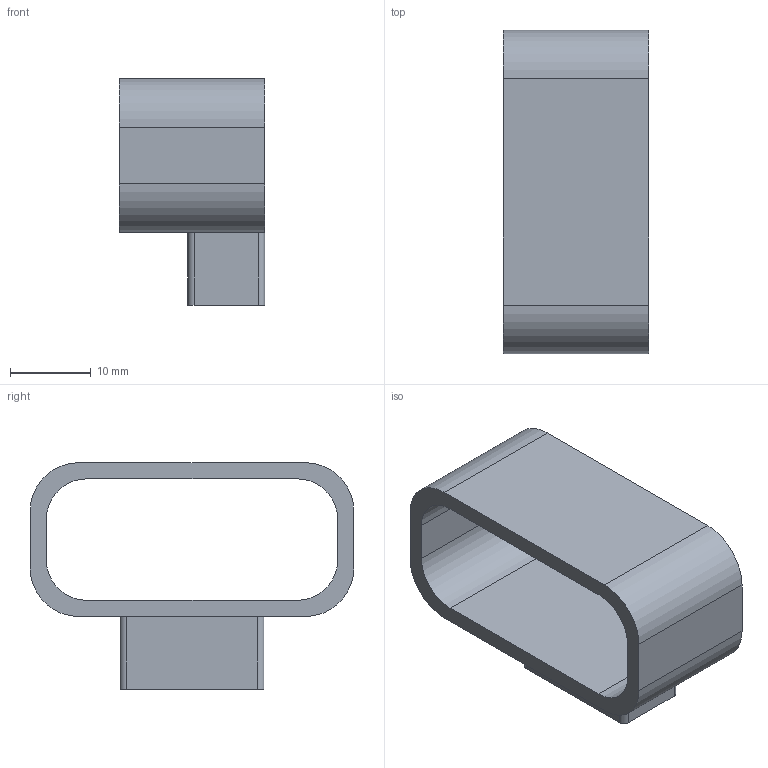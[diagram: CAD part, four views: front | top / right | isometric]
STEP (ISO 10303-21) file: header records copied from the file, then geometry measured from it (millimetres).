
FILE_DESCRIPTION(/* description */ ('STEP AP242','CAx-IF Rec.Pracs.---Representation and Presentation of Product Manufacturing Information (PMI)---4.0---2014-10-13','CAx-IF Rec.Pracs.---3D Tessellated Geometry---0.4---2014-09-14','2;1'),/* implementation_level */ '2;1');
FILE_NAME(/* name */ '6536b40c03050d6769cf32a5',/* time_stamp */ '2023-10-23T17:57:32Z',/* author */ (''),/* organization */ (''),/* preprocessor_version */ 'ST-DEVELOPER v19.4',/* originating_system */ ' ',/* authorisation */ ' ');
FILE_SCHEMA (('AP242_MANAGED_MODEL_BASED_3D_ENGINEERING_MIM_LF { 1 0 10303 442 1 1 4 }'));
Length unit declared in the file: metre
Products named in the file (1): Camera Mount Slide
Bounding box: 18 x 40 x 28 mm (x, y, z)
Volume: 5306.2 mm3; surface area: 4520.7 mm2
Topology: 1 solids, 1 shells, 26 faces, 72 edges, 48 vertices
Faces by surface type: plane 14, cylinder 12
Entity records: 866 total; most frequent: DIRECTION 150, CARTESIAN_POINT 147, ORIENTED_EDGE 144, EDGE_CURVE 72, AXIS2_PLACEMENT_3D 51, VERTEX_POINT 48, LINE 48, VECTOR 48
